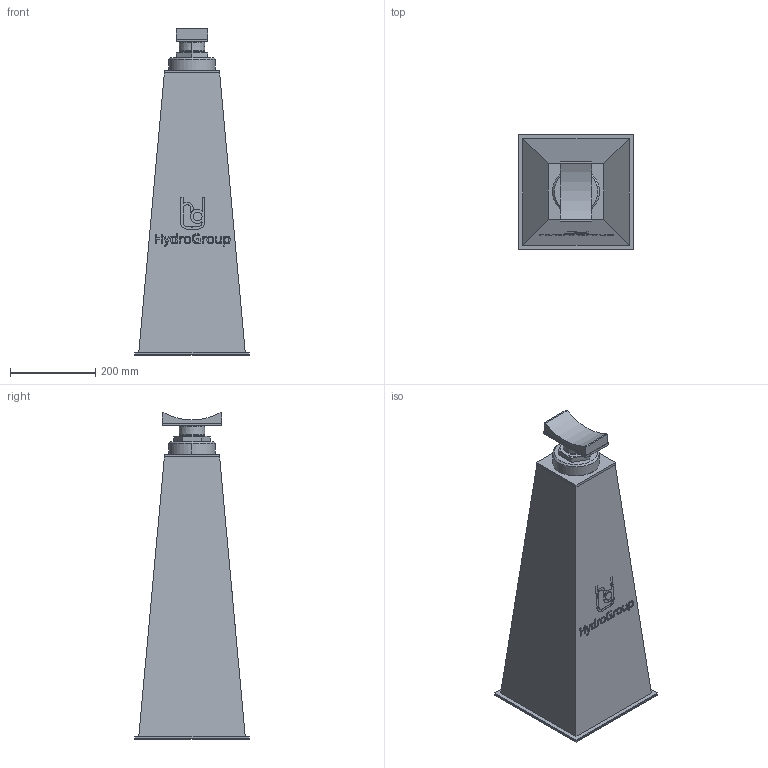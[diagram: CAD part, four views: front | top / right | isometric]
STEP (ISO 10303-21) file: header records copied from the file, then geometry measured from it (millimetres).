
FILE_DESCRIPTION(('STEP AP214'),'1');
FILE_NAME('RSRFE-I_DN250.stp','2018-06-27T12:56:22',(' '),(' '),'Spatial InterOp 3D',' ',' ');
FILE_SCHEMA(('automotive_design'));
Length unit declared in the file: millimetre
Products named in the file (6): 1; 2; 3; 4; 5; 6
Bounding box: 270 x 270 x 767 mm (x, y, z)
Volume: 26335920.5 mm3; surface area: 900883.7 mm2
Topology: 6 solids, 6 shells, 223 faces, 552 edges, 361 vertices
Faces by surface type: plane 145, cylinder 30, extrusion 24, cone 20, torus 4
Entity records: 8998 total; most frequent: CARTESIAN_POINT 1816, ORIENTED_EDGE 1104, DIRECTION 1017, EDGE_CURVE 552, VECTOR 425, LINE 401, VERTEX_POINT 361, AXIS2_PLACEMENT_3D 296
